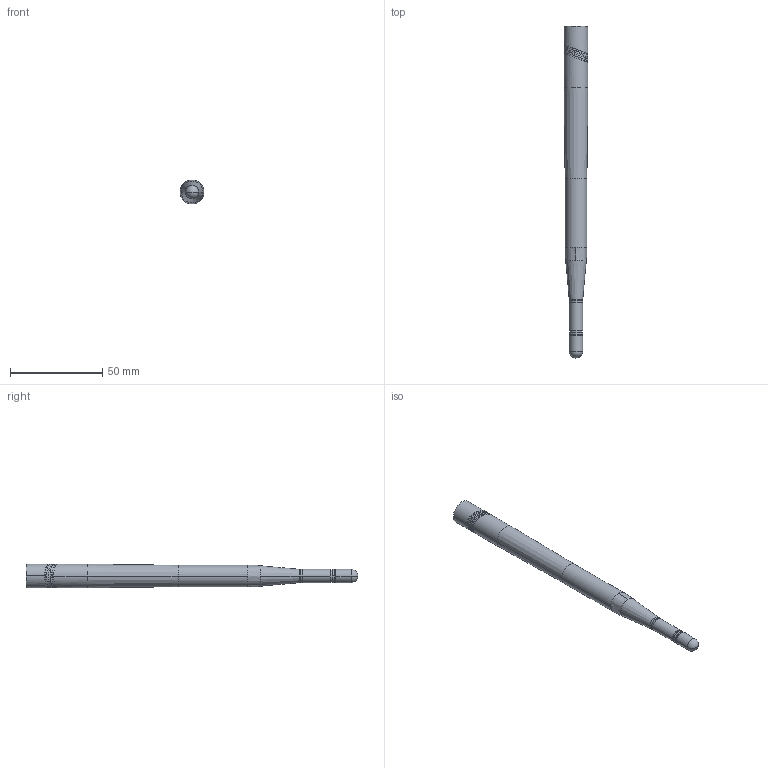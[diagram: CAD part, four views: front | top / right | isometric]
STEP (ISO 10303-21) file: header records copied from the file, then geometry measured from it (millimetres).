
FILE_DESCRIPTION((''),'2;1');
FILE_NAME('9001748','2024-04-03T15:56:35',('ycollin'),(''),'CREO PARAMETRIC BY PTC INC, 2023072','CREO PARAMETRIC BY PTC INC, 2023072','');
FILE_SCHEMA(('CONFIG_CONTROL_DESIGN'));
Length unit declared in the file: millimetre
Products named in the file (1): 9001748
Bounding box: 13 x 180.01 x 13 mm (x, y, z)
Volume: 10652.8 mm3; surface area: 10403.6 mm2
Topology: 1 solids, 1 shells, 135 faces, 346 edges, 215 vertices
Faces by surface type: cylinder 86, bspline 20, cone 13, plane 8, torus 4, sphere 4
Entity records: 7253 total; most frequent: CARTESIAN_POINT 4254, ORIENTED_EDGE 684, DIRECTION 513, EDGE_CURVE 342, VERTEX_POINT 215, AXIS2_PLACEMENT_3D 202, B_SPLINE_CURVE_WITH_KNOTS 146, EDGE_LOOP 141
